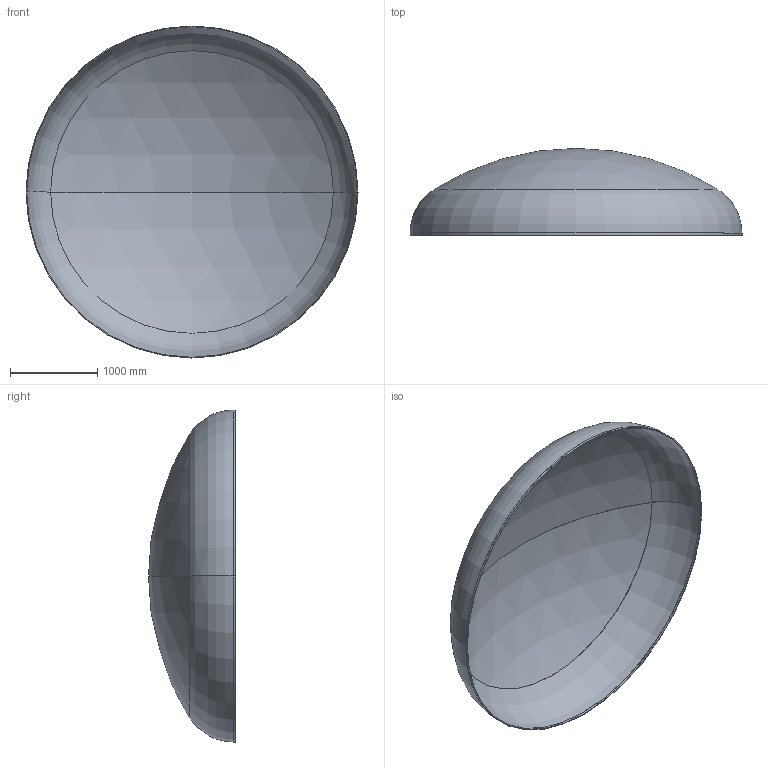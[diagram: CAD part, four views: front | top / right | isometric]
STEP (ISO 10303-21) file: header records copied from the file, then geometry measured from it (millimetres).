
FILE_DESCRIPTION (( 'STEP AP203' ), '1' );
FILE_NAME ('DIN 28013 Korbbogenform_-_Boden DIN 28013 - 3800 x 25 - I - s=8.step', '2016-07-01T21:00:09', ( '' ), ( '' ), 'SwSTEP 2.0', 'SolidWorks 2013', '' );
FILE_SCHEMA (( 'CONFIG_CONTROL_DESIGN' ));
Length unit declared in the file: millimetre
Products named in the file (1): DIN 28013 Korbbogenform_-_Boden DIN 28013 - 3800 x 25 - I - s=8
Bounding box: 3800 x 994.83 x 3800 mm (x, y, z)
Volume: 127694809 mm3; surface area: 32019126.5 mm2
Topology: 1 solids, 1 shells, 13 faces, 24 edges, 14 vertices
Faces by surface type: torus 4, cylinder 4, sphere 4, plane 1
Entity records: 407 total; most frequent: DIRECTION 72, CARTESIAN_POINT 52, ORIENTED_EDGE 48, AXIS2_PLACEMENT_3D 34, EDGE_CURVE 24, CIRCLE 20, VERTEX_POINT 14, EDGE_LOOP 14
